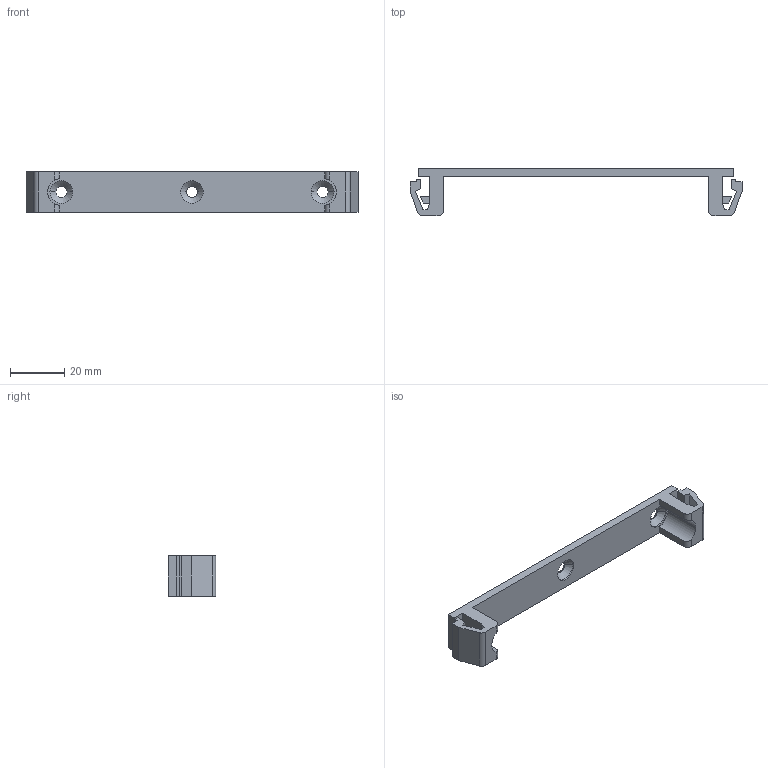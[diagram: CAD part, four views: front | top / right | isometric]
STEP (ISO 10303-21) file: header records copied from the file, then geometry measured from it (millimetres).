
FILE_DESCRIPTION (( 'STEP AP214' ), '1' );
FILE_NAME ('Traversenaufnahme innenliegend.STEP', '2010-09-27T09:12:34', ( 'Grass' ), ( '' ), 'SwSTEP 2.0', 'SolidWorks 2010', '' );
FILE_SCHEMA (( 'AUTOMOTIVE_DESIGN' ));
Length unit declared in the file: millimetre
Products named in the file (1): Traversenaufnahme innenliegend
Bounding box: 122 x 17.5 x 15 mm (x, y, z)
Volume: 7379.3 mm3; surface area: 6817.8 mm2
Topology: 1 solids, 1 shells, 74 faces, 200 edges, 128 vertices
Faces by surface type: plane 46, cylinder 22, cone 6
Entity records: 2402 total; most frequent: CARTESIAN_POINT 471, ORIENTED_EDGE 400, DIRECTION 386, EDGE_CURVE 200, LINE 156, VECTOR 156, VERTEX_POINT 128, AXIS2_PLACEMENT_3D 115
